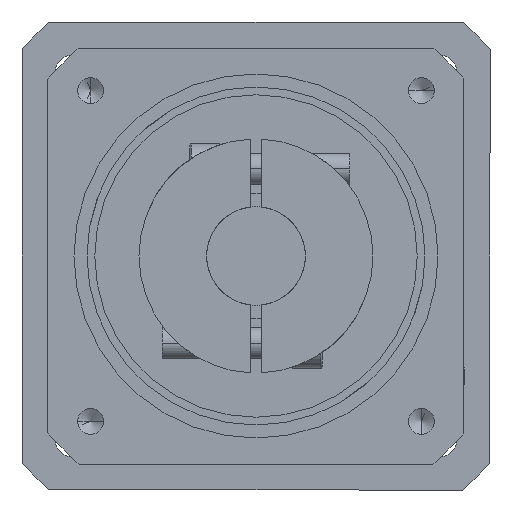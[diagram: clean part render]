
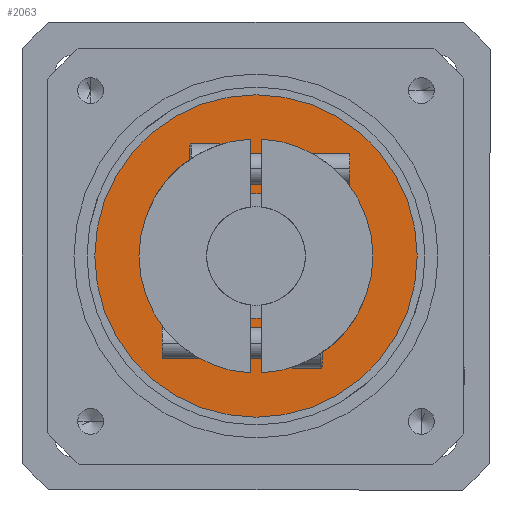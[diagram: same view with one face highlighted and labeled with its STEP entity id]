
A CAD part, front view. The second image highlights one B-rep face of the part: STEP entity #2063.
In plain terms, the highlighted planar face has unit normal (0, -1, 0).
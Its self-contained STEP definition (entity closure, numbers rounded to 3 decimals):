
#153 = CIRCLE ( 'NONE', #478, 31. ) ;
#236 = ORIENTED_EDGE ( 'NONE', *, *, #303, .F. ) ;
#303 = EDGE_CURVE ( 'NONE', #1299, #4612, #153, .T. ) ;
#478 = AXIS2_PLACEMENT_3D ( 'NONE', #4913, #2452, #5318 ) ;
#531 = CARTESIAN_POINT ( 'NONE',  ( 0., -95.6, 0. ) ) ;
#560 = EDGE_LOOP ( 'NONE', ( #4108, #3985 ) ) ;
#584 = AXIS2_PLACEMENT_3D ( 'NONE', #1796, #2208, #5073 ) ;
#936 = DIRECTION ( 'NONE',  ( 0., 0., 1. ) ) ;
#981 = EDGE_CURVE ( 'NONE', #1415, #2613, #2766, .T. ) ;
#1132 = DIRECTION ( 'NONE',  ( 0., 1., 0. ) ) ;
#1244 = EDGE_CURVE ( 'NONE', #4612, #1299, #2827, .T. ) ;
#1299 = VERTEX_POINT ( 'NONE', #1599 ) ;
#1415 = VERTEX_POINT ( 'NONE', #2132 ) ;
#1462 = DIRECTION ( 'NONE',  ( 0., 1., 0. ) ) ;
#1482 = EDGE_LOOP ( 'NONE', ( #5199, #236 ) ) ;
#1599 = CARTESIAN_POINT ( 'NONE',  ( 0., -95.6, -31. ) ) ;
#1796 = CARTESIAN_POINT ( 'NONE',  ( 0., -95.6, 12. ) ) ;
#2029 = AXIS2_PLACEMENT_3D ( 'NONE', #3930, #1462, #4330 ) ;
#2063 = ADVANCED_FACE ( 'NONE', ( #3046, #5235 ), #2582, .F. ) ;
#2132 = CARTESIAN_POINT ( 'NONE',  ( 0., -95.6, 12. ) ) ;
#2208 = DIRECTION ( 'NONE',  ( 0., 1., 0. ) ) ;
#2452 = DIRECTION ( 'NONE',  ( 0., 1., 0. ) ) ;
#2582 = PLANE ( 'NONE',  #584 ) ;
#2613 = VERTEX_POINT ( 'NONE', #4398 ) ;
#2766 = CIRCLE ( 'NONE', #4383, 12. ) ;
#2827 = CIRCLE ( 'NONE', #5112, 31. ) ;
#3046 = FACE_OUTER_BOUND ( 'NONE', #1482, .T. ) ;
#3091 = CIRCLE ( 'NONE', #2029, 12. ) ;
#3398 = DIRECTION ( 'NONE',  ( 0., 1., 0. ) ) ;
#3599 = CARTESIAN_POINT ( 'NONE',  ( 0., -95.6, 0. ) ) ;
#3715 = CARTESIAN_POINT ( 'NONE',  ( 0., -95.6, 31. ) ) ;
#3930 = CARTESIAN_POINT ( 'NONE',  ( 0., -95.6, 0. ) ) ;
#3985 = ORIENTED_EDGE ( 'NONE', *, *, #5283, .T. ) ;
#4008 = DIRECTION ( 'NONE',  ( 0., 0., 1. ) ) ;
#4108 = ORIENTED_EDGE ( 'NONE', *, *, #981, .T. ) ;
#4330 = DIRECTION ( 'NONE',  ( 0., 0., 1. ) ) ;
#4383 = AXIS2_PLACEMENT_3D ( 'NONE', #531, #3398, #936 ) ;
#4398 = CARTESIAN_POINT ( 'NONE',  ( 0., -95.6, -12. ) ) ;
#4612 = VERTEX_POINT ( 'NONE', #3715 ) ;
#4913 = CARTESIAN_POINT ( 'NONE',  ( 0., -95.6, 0. ) ) ;
#5073 = DIRECTION ( 'NONE',  ( 0., 0., 1. ) ) ;
#5112 = AXIS2_PLACEMENT_3D ( 'NONE', #3599, #1132, #4008 ) ;
#5199 = ORIENTED_EDGE ( 'NONE', *, *, #1244, .F. ) ;
#5235 = FACE_BOUND ( 'NONE', #560, .T. ) ;
#5283 = EDGE_CURVE ( 'NONE', #2613, #1415, #3091, .T. ) ;
#5318 = DIRECTION ( 'NONE',  ( 0., 0., 1. ) ) ;
